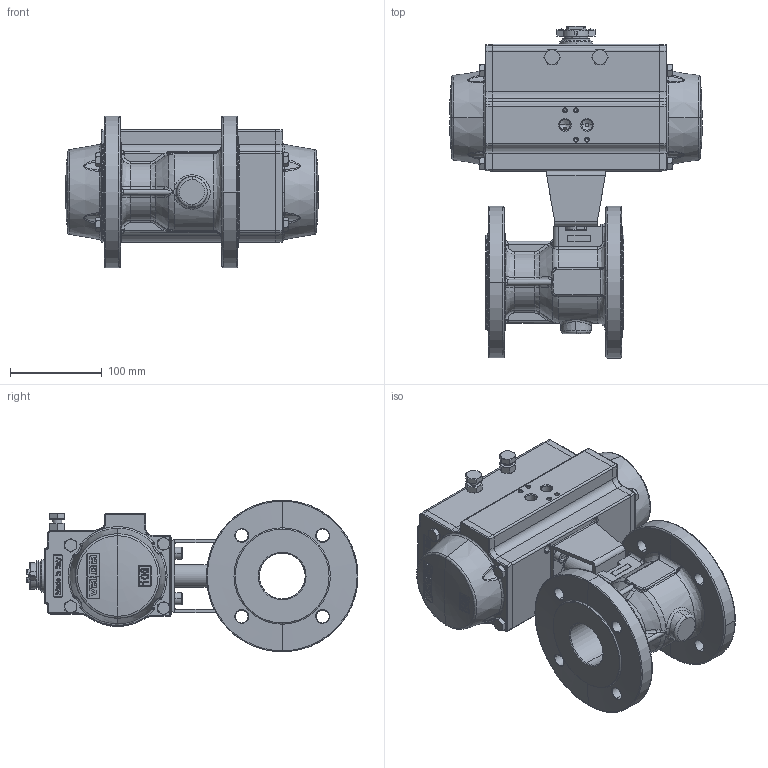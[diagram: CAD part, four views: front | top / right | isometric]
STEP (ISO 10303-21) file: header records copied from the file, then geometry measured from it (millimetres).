
FILE_DESCRIPTION (( 'STEP AP214' ), '1' );
FILE_NAME ('8P00460010.STEP', '2017-06-30T07:23:17', ( 'Bernardelli' ), ( 'Hewlett-Packard Company' ), 'SwSTEP 2.0', 'SolidWorks 2015', '' );
FILE_SCHEMA (( 'AUTOMOTIVE_DESIGN' ));
Length unit declared in the file: millimetre
Products named in the file (1): 8P00460010
Bounding box: 275.2 x 361.3 x 165 mm (x, y, z)
Volume: 4719091 mm3; surface area: 384868.8 mm2
Topology: 1 solids, 1 shells, 2243 faces, 5740 edges, 3502 vertices
Faces by surface type: bspline 778, plane 769, cylinder 375, cone 291, torus 18, sphere 12
Entity records: 125053 total; most frequent: CARTESIAN_POINT 64019, ORIENTED_EDGE 11294, DIRECTION 7231, EDGE_CURVE 5647, VERTEX_POINT 3502, AXIS2_PLACEMENT_3D 2579, EDGE_LOOP 2389, FACE_OUTER_BOUND 2243
